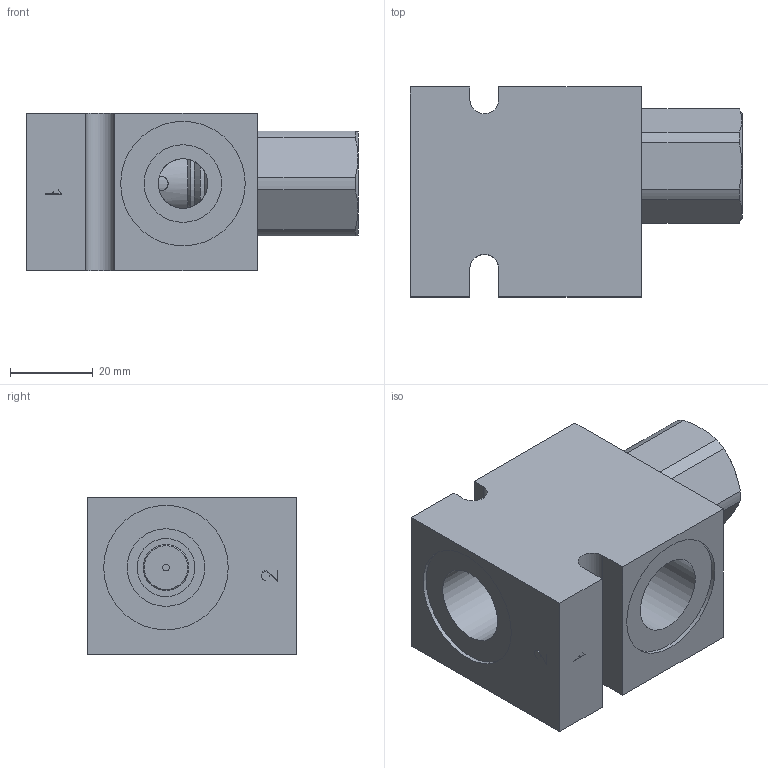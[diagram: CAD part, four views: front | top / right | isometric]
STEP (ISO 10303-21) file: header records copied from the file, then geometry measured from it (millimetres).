
FILE_DESCRIPTION( ( 'Unknown' ), '1' );
FILE_NAME( 'G:/Graphic Design/Graphic Design 2/Data Sheets/FLOW CONTROLS/2_STEP/Pressure Compensated Flow Regulator Valves/D-DEFCB00-C2.stp', 'Unknown', ( 'Unknown' ), ( 'Unknown' ), 'PSStep 16.0.42', 'Unknown', ' ' );
FILE_SCHEMA( ( 'AUTOMOTIVE_DESIGN { 1 0 10303 214 1 1 1 1 }' ) );
Length unit declared in the file: millimetre
Products named in the file (7): DEFCB00; DEFCB00-3D Full1; DEFCB00-3D Full2; DEFCB00-3D Full3; DEFCB00-3D Full4; Assem1; B-DDEC2
Assembly tree (6 placements, depth 3):
  Assem1
    B-DDEC2
    DEFCB00
      DEFCB00-3D Full1
      DEFCB00-3D Full2
      DEFCB00-3D Full3
      DEFCB00-3D Full4
Bounding box: 80.4 x 50.8 x 38.1 mm (x, y, z)
Surface area: 26088.9 mm2 (no closed solid volume)
Topology: 0 solids, 159 shells, 159 faces, 690 edges, 621 vertices
Faces by surface type: plane 79, cylinder 45, cone 32, torus 3
Full cylindrical faces by diameter (mm): 0.2 x2, 1.575 x1, 3.556 x8, 9.385 x1, 10.077 x1, 11.093 x3, 11.11 x1, 12 x1, 12.992 x1, 13.043 x1, 14 x1, 15.735 x1, 15.761 x2, 15.9 x1, 17.043 x1, 17.323 x1, 18.8 x4, 19.622 x1, 20.262 x2, 30.17 x2, 30.175 x1
Entity records: 9480 total; most frequent: CARTESIAN_POINT 3433, DIRECTION 920, VERTEX_POINT 608, ORIENTED_EDGE 606, EDGE_CURVE 606, AXIS2_PLACEMENT_3D 379, FACE_BOUND 250, EDGE_LOOP 248
